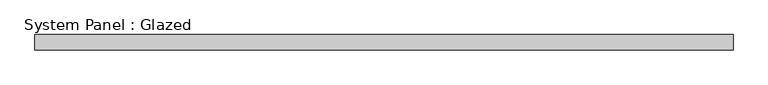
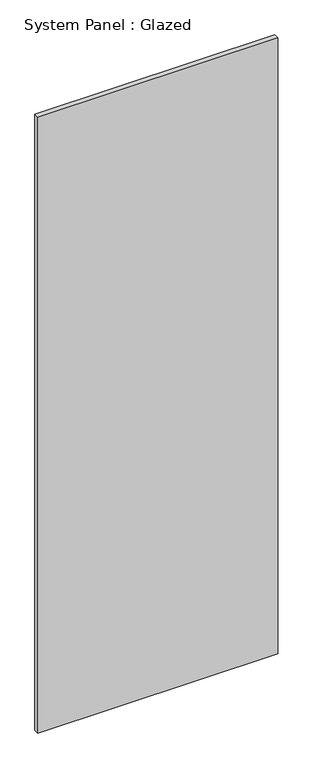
"""IFC4 building model written with IfcOpenShell, lengths in millimetres: plate geometry, System Panel : Glazed."""

from ifc_helpers import new_model, si_unit, origin, origin_with_axes, place, context, project, spatial, polyline, outline, extrude, source, transform, mapped, element, save


def system_panel_glazed_d3df0774(model_context):
    return source(origin(), model_context, "Body", "SweptSolid", [
        extrude(outline(polyline([(571.5147841, -12.5), (-571.5147841, -12.5), (-571.5147841, 12.5), (571.5147841, 12.5), (571.5147841, -12.5)])), origin_with_axes(), (0.0, 0.0, 1.0), 3100.0),
    ])


if __name__ == "__main__":
    model = new_model("IFC4")
    model_context = context("Model", 3, world=origin())
    ifc_project = project(units=[si_unit("LENGTHUNIT", "METRE", prefix="MILLI")], contexts=[model_context])
    site = spatial("IfcSite", under=ifc_project)
    building = spatial("IfcBuilding", under=site)
    placement = place(None, origin())
    system_panel_glazed_shape = system_panel_glazed_d3df0774(model_context)
    element("IfcPlate", 1, ObjectType="System Panel : Glazed", at=placement, inside=building, context=model_context, shape_type="MappedRepresentation", body=[
        mapped(system_panel_glazed_shape, transform((0.0, 0.0, 0.0), x_axis=(1.0, 0.0, 0.0), y_axis=(0.0, 1.0, 0.0), z_axis=(0.0, 0.0, 1.0))),
    ])
    save(model, "model.ifc")
